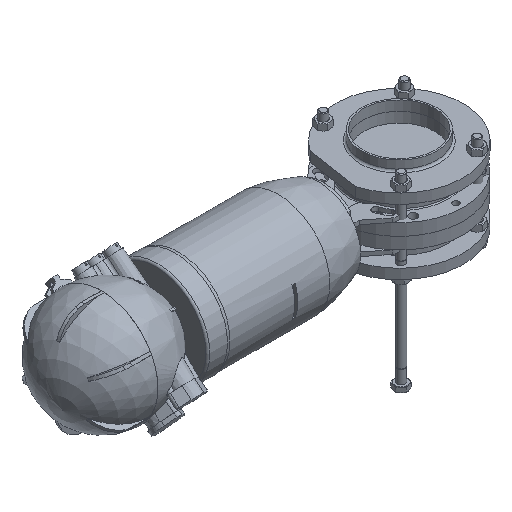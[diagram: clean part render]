
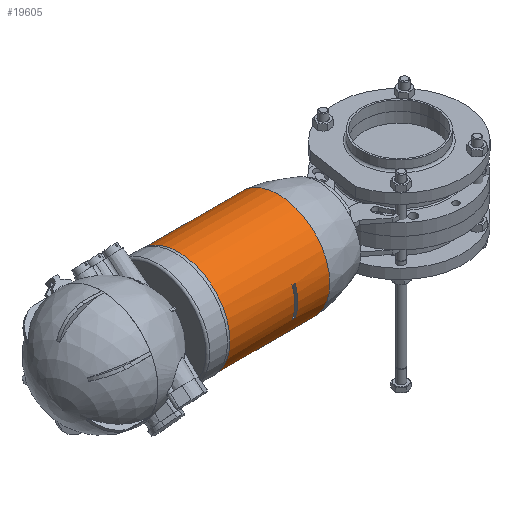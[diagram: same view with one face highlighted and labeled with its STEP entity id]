
A CAD part, isometric view. The second image highlights one B-rep face of the part: STEP entity #19605.
In plain terms, the highlighted cylindrical face has radius 52 mm (diameter 104 mm), a full revolution.
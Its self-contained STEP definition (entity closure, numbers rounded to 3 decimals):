
#294=FACE_BOUND('',#4878,.T.);
#295=FACE_BOUND('',#4879,.T.);
#607=B_SPLINE_CURVE_WITH_KNOTS('',3,(#36075,#36076,#36077,#36078,#36079,
#36080,#36081,#36082,#36083,#36084),.UNSPECIFIED.,.F.,.F.,(4,2,2,2,4),(2.276,
2.466,2.656,2.845,3.034),
 .UNSPECIFIED.);
#608=B_SPLINE_CURVE_WITH_KNOTS('',3,(#36086,#36087,#36088,#36089,#36090,
#36091,#36092,#36093,#36094,#36095,#36096,#36097,#36098,#36099,#36100,#36101,
#36102,#36103),.UNSPECIFIED.,.F.,.F.,(4,2,2,2,2,2,2,2,4),(0.759,
0.949,1.139,1.328,1.517,1.706,
1.895,2.086,2.276),.UNSPECIFIED.);
#609=B_SPLINE_CURVE_WITH_KNOTS('',3,(#36104,#36105,#36106,#36107,#36108,
#36109,#36110,#36111,#36112,#36113),.UNSPECIFIED.,.F.,.F.,(4,2,2,2,4),(3.034,
3.224,3.413,3.603,3.793),
 .UNSPECIFIED.);
#3744=FACE_OUTER_BOUND('',#4877,.T.);
#4877=EDGE_LOOP('',(#17647,#17648,#17649,#17650,#17651,#17652));
#4878=EDGE_LOOP('',(#17653,#17654,#17655,#17656));
#4879=EDGE_LOOP('',(#17657,#17658,#17659));
#6004=LINE('',#35880,#7126);
#6007=LINE('',#35912,#7129);
#6037=LINE('',#36151,#7159);
#7126=VECTOR('',#27249,10.);
#7129=VECTOR('',#27262,10.);
#7159=VECTOR('',#27420,52.);
#8003=CIRCLE('',#22021,52.);
#8004=CIRCLE('',#22024,52.);
#8013=CIRCLE('',#22043,52.);
#8014=CIRCLE('',#22044,52.);
#8034=CIRCLE('',#22084,52.);
#8035=CIRCLE('',#22085,52.);
#9750=VERTEX_POINT('',#35877);
#9751=VERTEX_POINT('',#35879);
#9754=VERTEX_POINT('',#35887);
#9756=VERTEX_POINT('',#35911);
#9766=VERTEX_POINT('',#35987);
#9767=VERTEX_POINT('',#35989);
#9794=VERTEX_POINT('',#36072);
#9795=VERTEX_POINT('',#36074);
#9796=VERTEX_POINT('',#36085);
#9798=VERTEX_POINT('',#36145);
#9799=VERTEX_POINT('',#36147);
#12390=EDGE_CURVE('',#9751,#9750,#6004,.T.);
#12394=EDGE_CURVE('',#9754,#9751,#8003,.T.);
#12397=EDGE_CURVE('',#9756,#9754,#6007,.T.);
#12399=EDGE_CURVE('',#9750,#9756,#8004,.T.);
#12418=EDGE_CURVE('',#9767,#9766,#8013,.T.);
#12419=EDGE_CURVE('',#9766,#9767,#8014,.T.);
#12456=EDGE_CURVE('',#9795,#9794,#607,.T.);
#12457=EDGE_CURVE('',#9796,#9795,#608,.T.);
#12458=EDGE_CURVE('',#9794,#9796,#609,.T.);
#12462=EDGE_CURVE('',#9799,#9798,#8034,.T.);
#12463=EDGE_CURVE('',#9798,#9799,#8035,.T.);
#12464=EDGE_CURVE('',#9767,#9799,#6037,.T.);
#17647=ORIENTED_EDGE('',*,*,#12418,.T.);
#17648=ORIENTED_EDGE('',*,*,#12419,.T.);
#17649=ORIENTED_EDGE('',*,*,#12464,.T.);
#17650=ORIENTED_EDGE('',*,*,#12462,.T.);
#17651=ORIENTED_EDGE('',*,*,#12463,.T.);
#17652=ORIENTED_EDGE('',*,*,#12464,.F.);
#17653=ORIENTED_EDGE('',*,*,#12399,.T.);
#17654=ORIENTED_EDGE('',*,*,#12397,.T.);
#17655=ORIENTED_EDGE('',*,*,#12394,.T.);
#17656=ORIENTED_EDGE('',*,*,#12390,.T.);
#17657=ORIENTED_EDGE('',*,*,#12457,.T.);
#17658=ORIENTED_EDGE('',*,*,#12456,.T.);
#17659=ORIENTED_EDGE('',*,*,#12458,.T.);
#18661=CYLINDRICAL_SURFACE('',#22086,52.);
#19605=ADVANCED_FACE('',(#3744,#294,#295),#18661,.T.);
#22021=AXIS2_PLACEMENT_3D('',#35888,#27257,#27258);
#22024=AXIS2_PLACEMENT_3D('',#35915,#27266,#27267);
#22043=AXIS2_PLACEMENT_3D('',#35990,#27312,#27313);
#22044=AXIS2_PLACEMENT_3D('',#35991,#27314,#27315);
#22084=AXIS2_PLACEMENT_3D('',#36148,#27414,#27415);
#22085=AXIS2_PLACEMENT_3D('',#36149,#27416,#27417);
#22086=AXIS2_PLACEMENT_3D('',#36150,#27418,#27419);
#27249=DIRECTION('',(0.,1.,0.));
#27257=DIRECTION('center_axis',(0.,-1.,0.));
#27258=DIRECTION('ref_axis',(0.,0.,
1.));
#27262=DIRECTION('',(0.,-1.,0.));
#27266=DIRECTION('center_axis',(0.,1.,0.));
#27267=DIRECTION('ref_axis',(0.,0.,
1.));
#27312=DIRECTION('center_axis',(0.,-1.,0.));
#27313=DIRECTION('ref_axis',(0.,0.,
1.));
#27314=DIRECTION('center_axis',(0.,-1.,0.));
#27315=DIRECTION('ref_axis',(0.,0.,
1.));
#27414=DIRECTION('center_axis',(0.,1.,0.));
#27415=DIRECTION('ref_axis',(1.,0.,0.));
#27416=DIRECTION('center_axis',(0.,1.,0.));
#27417=DIRECTION('ref_axis',(1.,0.,0.));
#27418=DIRECTION('center_axis',(0.,1.,0.));
#27419=DIRECTION('ref_axis',(-1.,0.,0.));
#27420=DIRECTION('',(0.,-1.,0.));
#35877=CARTESIAN_POINT('',(15.,77.,-49.79));
#35879=CARTESIAN_POINT('',(15.,74.,-49.79));
#35880=CARTESIAN_POINT('',(15.,106.75,-49.79));
#35887=CARTESIAN_POINT('',(-15.,74.,-49.79));
#35888=CARTESIAN_POINT('Origin',(0.,74.,
0.));
#35911=CARTESIAN_POINT('',(-15.,77.,-49.79));
#35912=CARTESIAN_POINT('',(-15.,106.75,-49.79));
#35915=CARTESIAN_POINT('Origin',(0.,77.,
0.));
#35987=CARTESIAN_POINT('',(0.,142.5,-52.));
#35989=CARTESIAN_POINT('',(52.,142.5,0.));
#35990=CARTESIAN_POINT('Origin',(0.,142.5,0.));
#35991=CARTESIAN_POINT('Origin',(0.,142.5,0.));
#36072=CARTESIAN_POINT('',(-4.963,59.,51.763));
#36074=CARTESIAN_POINT('',(0.,53.9,52.));
#36075=CARTESIAN_POINT('Ctrl Pts',(0.,53.9,
52.));
#36076=CARTESIAN_POINT('Ctrl Pts',(-0.634,53.9,
52.));
#36077=CARTESIAN_POINT('Ctrl Pts',(-1.308,54.033,51.987));
#36078=CARTESIAN_POINT('Ctrl Pts',(-2.541,54.566,51.942));
#36079=CARTESIAN_POINT('Ctrl Pts',(-3.1,54.966,51.909));
#36080=CARTESIAN_POINT('Ctrl Pts',(-3.973,55.879,51.85));
#36081=CARTESIAN_POINT('Ctrl Pts',(-4.348,56.45,51.819));
#36082=CARTESIAN_POINT('Ctrl Pts',(-4.842,57.696,51.775));
#36083=CARTESIAN_POINT('Ctrl Pts',(-4.963,58.37,51.763));
#36084=CARTESIAN_POINT('Ctrl Pts',(-4.963,59.,51.763));
#36085=CARTESIAN_POINT('',(0.,64.1,52.));
#36086=CARTESIAN_POINT('Ctrl Pts',(0.,64.1,
52.));
#36087=CARTESIAN_POINT('Ctrl Pts',(0.634,64.1,52.));
#36088=CARTESIAN_POINT('Ctrl Pts',(1.308,63.967,51.987));
#36089=CARTESIAN_POINT('Ctrl Pts',(2.541,63.434,51.942));
#36090=CARTESIAN_POINT('Ctrl Pts',(3.1,63.034,51.909));
#36091=CARTESIAN_POINT('Ctrl Pts',(3.973,62.121,51.85));
#36092=CARTESIAN_POINT('Ctrl Pts',(4.348,61.55,51.819));
#36093=CARTESIAN_POINT('Ctrl Pts',(4.842,60.304,51.775));
#36094=CARTESIAN_POINT('Ctrl Pts',(4.963,59.63,51.763));
#36095=CARTESIAN_POINT('Ctrl Pts',(4.963,58.37,51.763));
#36096=CARTESIAN_POINT('Ctrl Pts',(4.842,57.696,51.775));
#36097=CARTESIAN_POINT('Ctrl Pts',(4.348,56.45,51.819));
#36098=CARTESIAN_POINT('Ctrl Pts',(3.973,55.879,51.85));
#36099=CARTESIAN_POINT('Ctrl Pts',(3.1,54.966,51.909));
#36100=CARTESIAN_POINT('Ctrl Pts',(2.541,54.566,51.942));
#36101=CARTESIAN_POINT('Ctrl Pts',(1.308,54.033,51.987));
#36102=CARTESIAN_POINT('Ctrl Pts',(0.634,53.9,52.));
#36103=CARTESIAN_POINT('Ctrl Pts',(0.,53.9,
52.));
#36104=CARTESIAN_POINT('Ctrl Pts',(-4.963,59.,51.763));
#36105=CARTESIAN_POINT('Ctrl Pts',(-4.963,59.63,51.763));
#36106=CARTESIAN_POINT('Ctrl Pts',(-4.842,60.304,51.775));
#36107=CARTESIAN_POINT('Ctrl Pts',(-4.348,61.55,51.819));
#36108=CARTESIAN_POINT('Ctrl Pts',(-3.973,62.121,51.85));
#36109=CARTESIAN_POINT('Ctrl Pts',(-3.1,63.034,51.909));
#36110=CARTESIAN_POINT('Ctrl Pts',(-2.541,63.434,51.942));
#36111=CARTESIAN_POINT('Ctrl Pts',(-1.308,63.967,51.987));
#36112=CARTESIAN_POINT('Ctrl Pts',(-0.634,64.1,
52.));
#36113=CARTESIAN_POINT('Ctrl Pts',(0.,64.1,
52.));
#36145=CARTESIAN_POINT('',(0.,41.351,-52.));
#36147=CARTESIAN_POINT('',(52.,41.351,0.));
#36148=CARTESIAN_POINT('Origin',(0.,41.351,0.));
#36149=CARTESIAN_POINT('Origin',(0.,41.351,0.));
#36150=CARTESIAN_POINT('Origin',(0.,56.176,0.));
#36151=CARTESIAN_POINT('',(52.,56.176,0.));
